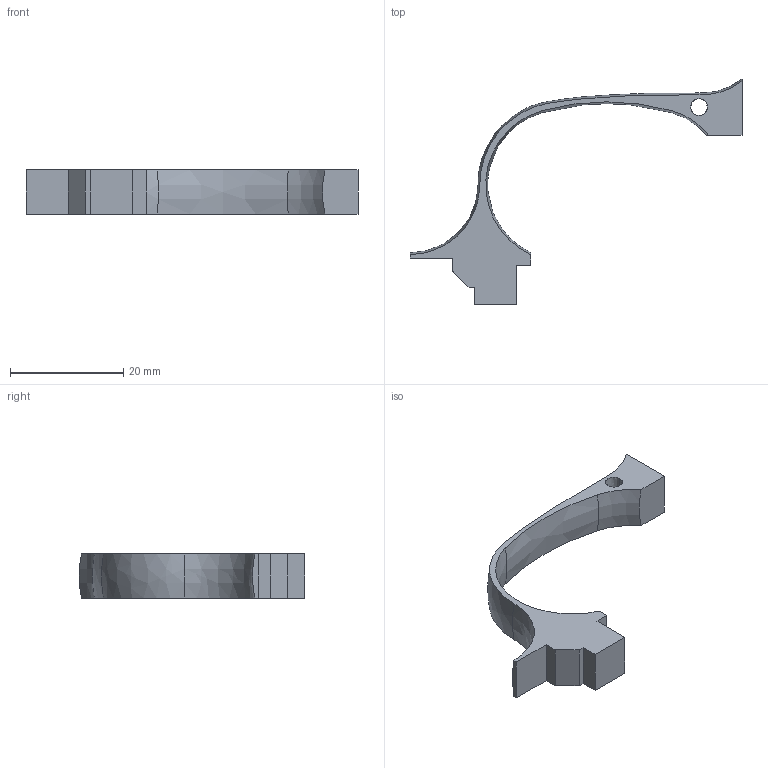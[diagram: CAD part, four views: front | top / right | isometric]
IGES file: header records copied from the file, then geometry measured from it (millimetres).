
Start section:  PTC IGES file: C:\Documents and Settings\audibk\personal\guns\walther\W alther_PPK\iges\schutz01.igs
Global section: file name: C:\Documents and Settings\audibk\personal\guns\walther\Walther_PPK\iges\schutz01.igs; native system: Pro/ENGINEER by Parametric Technology Corporation; preprocessor: 2002180; author: audibk; organization: Unknown; date: 030409.105324; units: millimetre
Bounding box: 58.75 x 39.95 x 7.8 mm (x, y, z)
Volume: 2487.6 mm3; surface area: 2150.7 mm2
Topology: 1 solids, 1 shells, 23 faces, 63 edges, 42 vertices
Faces by surface type: bspline 23
